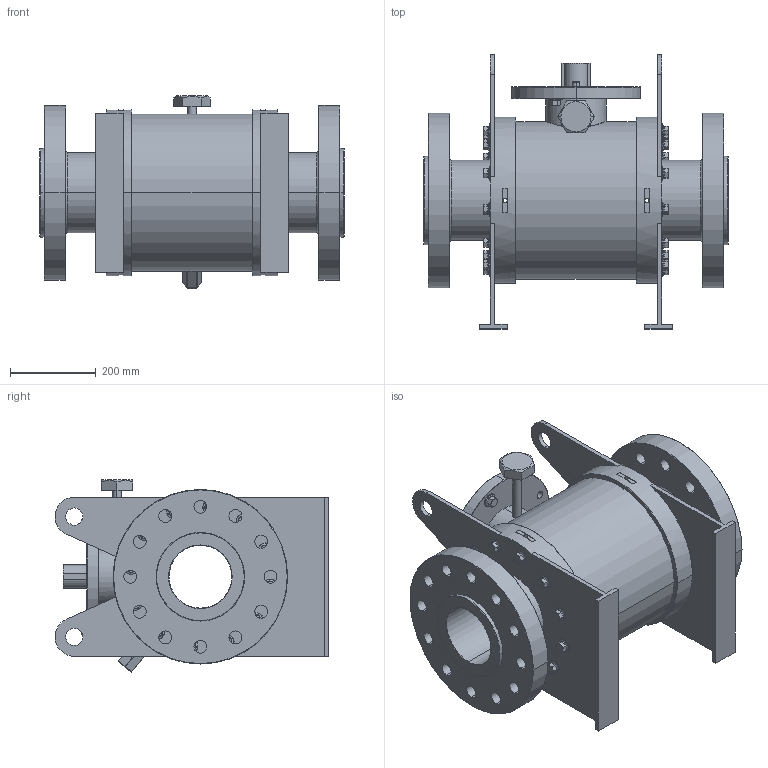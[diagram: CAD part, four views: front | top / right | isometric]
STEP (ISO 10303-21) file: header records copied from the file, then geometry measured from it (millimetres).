
FILE_DESCRIPTION (( 'STEP AP203' ), '1' );
FILE_NAME ('GB2_ANSI_1500_6IN_TW.STEP', '2025-10-06T17:58:52', ( '' ), ( '' ), 'SwSTEP 2.0', 'SolidWorks 2023', '' );
FILE_SCHEMA (( 'CONFIG_CONTROL_DESIGN' ));
Length unit declared in the file: millimetre
Products named in the file (3): hex flange screw_am_B18.2.3.4M - Hex flange screw, M16 x 2.0 x 25 --25N; GB2_ANSI_1500_6IN_TW; GB2_ANSI_2500_1500
Assembly tree (26 placements, depth 2):
  GB2_ANSI_1500_6IN_TW
    GB2_ANSI_2500_1500
    hex flange screw_am_B18.2.3.4M - Hex flange screw, M16 x 2.0 x 25 --25N  x25
Bounding box: 708 x 636.96 x 446.57 mm (x, y, z)
Volume: 55184103.9 mm3; surface area: 2576789 mm2
Topology: 26 solids, 26 shells, 1070 faces, 2388 edges, 1428 vertices
Faces by surface type: plane 334, cone 280, cylinder 232, bspline 162, torus 56, sphere 6
Entity records: 13784 total; most frequent: CARTESIAN_POINT 3736, DIRECTION 2024, ORIENTED_EDGE 1792, EDGE_CURVE 896, AXIS2_PLACEMENT_3D 821, VERTEX_POINT 562, EDGE_LOOP 492, CIRCLE 436
